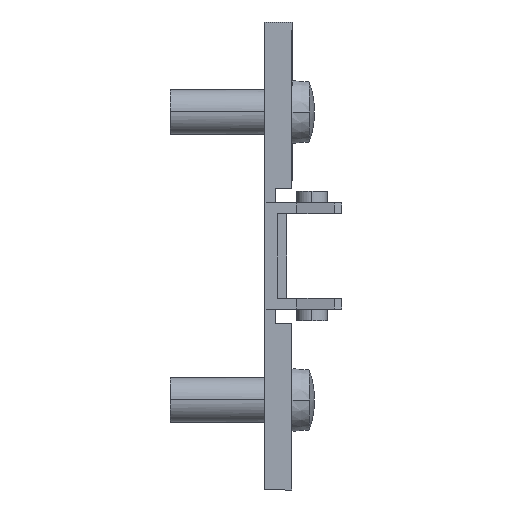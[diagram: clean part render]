
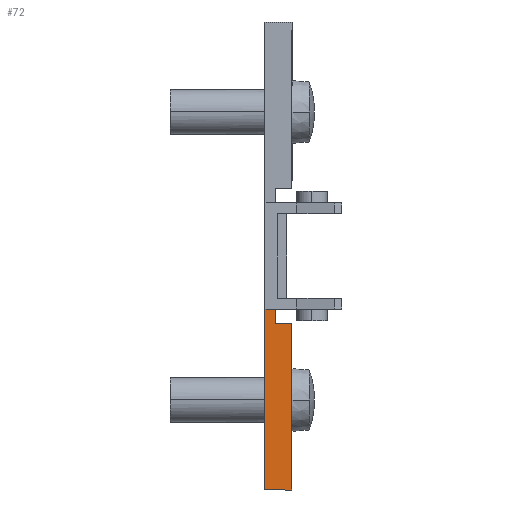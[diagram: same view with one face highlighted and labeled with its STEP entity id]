
A CAD part, front view. The second image highlights one B-rep face of the part: STEP entity #72.
In plain terms, the highlighted planar face has unit normal (0, -1, 0).
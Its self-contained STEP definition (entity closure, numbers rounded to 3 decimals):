
#72 = ADVANCED_FACE ( 'NONE', ( #3468 ), #934, .F. ) ;
#179 = LINE ( 'NONE', #2217, #184 ) ;
#184 = VECTOR ( 'NONE', #2226, 1000. ) ;
#278 = LINE ( 'NONE', #2431, #279 ) ;
#279 = VECTOR ( 'NONE', #2432, 1000. ) ;
#295 = LINE ( 'NONE', #2417, #296 ) ;
#296 = VECTOR ( 'NONE', #2418, 1000. ) ;
#364 = LINE ( 'NONE', #2534, #382 ) ;
#382 = VECTOR ( 'NONE', #2535, 1000. ) ;
#493 = CARTESIAN_POINT ( 'NONE',  ( 1.2, -9., -7.5 ) ) ;
#511 = VECTOR ( 'NONE', #2330, 1000. ) ;
#513 = LINE ( 'NONE', #2329, #511 ) ;
#532 = VERTEX_POINT ( 'NONE', #1088 ) ;
#545 = VERTEX_POINT ( 'NONE', #1101 ) ;
#592 = VERTEX_POINT ( 'NONE', #1160 ) ;
#595 = VERTEX_POINT ( 'NONE', #1165 ) ;
#698 = VERTEX_POINT ( 'NONE', #493 ) ;
#711 = VERTEX_POINT ( 'NONE', #1919 ) ;
#934 = PLANE ( 'NONE',  #2968 ) ;
#937 = CARTESIAN_POINT ( 'NONE',  ( 1.2, -9., -5. ) ) ;
#943 = DIRECTION ( 'NONE',  ( 0., 1., 0. ) ) ;
#944 = DIRECTION ( 'NONE',  ( 0., 0., 1. ) ) ;
#1088 = CARTESIAN_POINT ( 'NONE',  ( 3., -9., -7.5 ) ) ;
#1101 = CARTESIAN_POINT ( 'NONE',  ( 3., -9., -26. ) ) ;
#1160 = CARTESIAN_POINT ( 'NONE',  ( 0., -9., -26. ) ) ;
#1165 = CARTESIAN_POINT ( 'NONE',  ( 0., -9., -5.9 ) ) ;
#1355 = ORIENTED_EDGE ( 'NONE', *, *, #3095, .F. ) ;
#1356 = ORIENTED_EDGE ( 'NONE', *, *, #2979, .T. ) ;
#1357 = ORIENTED_EDGE ( 'NONE', *, *, #3246, .T. ) ;
#1358 = ORIENTED_EDGE ( 'NONE', *, *, #3240, .T. ) ;
#1359 = ORIENTED_EDGE ( 'NONE', *, *, #3171, .T. ) ;
#1519 = EDGE_LOOP ( 'NONE', ( #1355, #1356, #1357, #1358, #1359, #3529 ) ) ;
#1919 = CARTESIAN_POINT ( 'NONE',  ( 1.2, -9., -5.9 ) ) ;
#2026 = CARTESIAN_POINT ( 'NONE',  ( 0., -9., -26. ) ) ;
#2027 = DIRECTION ( 'NONE',  ( 0., 0., -1. ) ) ;
#2217 = CARTESIAN_POINT ( 'NONE',  ( 1.2, -9., -5.9 ) ) ;
#2226 = DIRECTION ( 'NONE',  ( 1., 0., 0. ) ) ;
#2329 = CARTESIAN_POINT ( 'NONE',  ( 1.2, -9., -7.5 ) ) ;
#2330 = DIRECTION ( 'NONE',  ( -1., 0., 0. ) ) ;
#2417 = CARTESIAN_POINT ( 'NONE',  ( 3., -9., -7.5 ) ) ;
#2418 = DIRECTION ( 'NONE',  ( 0., 0., 1. ) ) ;
#2431 = CARTESIAN_POINT ( 'NONE',  ( 3., -9., -26. ) ) ;
#2432 = DIRECTION ( 'NONE',  ( 1., 0., 0. ) ) ;
#2534 = CARTESIAN_POINT ( 'NONE',  ( 1.2, -9., -5. ) ) ;
#2535 = DIRECTION ( 'NONE',  ( 0., 0., 1. ) ) ;
#2740 = LINE ( 'NONE', #2026, #2916 ) ;
#2916 = VECTOR ( 'NONE', #2027, 1000. ) ;
#2968 = AXIS2_PLACEMENT_3D ( 'NONE', #937, #943, #944 ) ;
#2979 = EDGE_CURVE ( 'NONE', #595, #592, #2740, .T. ) ;
#3095 = EDGE_CURVE ( 'NONE', #595, #711, #179, .T. ) ;
#3171 = EDGE_CURVE ( 'NONE', #532, #698, #513, .T. ) ;
#3240 = EDGE_CURVE ( 'NONE', #545, #532, #295, .T. ) ;
#3246 = EDGE_CURVE ( 'NONE', #592, #545, #278, .T. ) ;
#3322 = EDGE_CURVE ( 'NONE', #698, #711, #364, .T. ) ;
#3468 = FACE_OUTER_BOUND ( 'NONE', #1519, .T. ) ;
#3529 = ORIENTED_EDGE ( 'NONE', *, *, #3322, .T. ) ;
